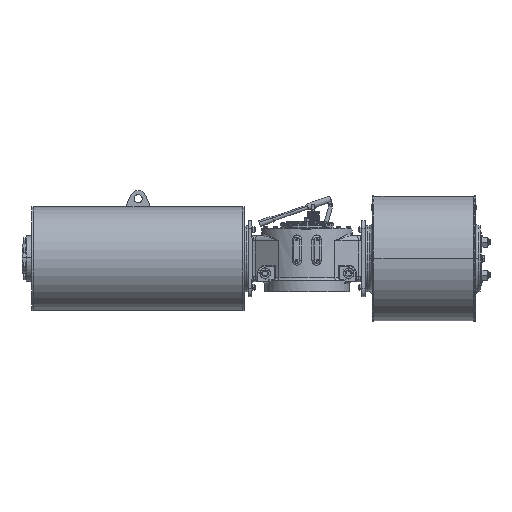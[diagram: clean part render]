
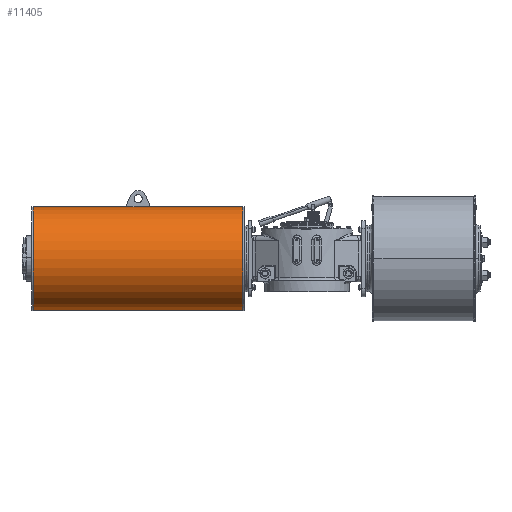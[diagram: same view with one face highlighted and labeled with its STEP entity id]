
A CAD part, front view. The second image highlights one B-rep face of the part: STEP entity #11405.
In plain terms, the highlighted cylindrical face has radius 254 mm (diameter 508 mm), a partial arc.
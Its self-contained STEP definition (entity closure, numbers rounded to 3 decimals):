
#534 = EDGE_CURVE ( 'NONE', #93563, #89310, #58595, .T. ) ;
#1491 = CIRCLE ( 'NONE', #76799, 254. ) ;
#3608 = FACE_OUTER_BOUND ( 'NONE', #30687, .T. ) ;
#5341 = EDGE_CURVE ( 'NONE', #89310, #21722, #104550, .T. ) ;
#6694 = EDGE_CURVE ( 'NONE', #21722, #26687, #41838, .T. ) ;
#7320 = DIRECTION ( 'NONE',  ( 0., 0., -1. ) ) ;
#7485 = CIRCLE ( 'NONE', #26333, 254. ) ;
#11405 = ADVANCED_FACE ( 'NONE', ( #3608 ), #60400, .T. ) ;
#17407 = DIRECTION ( 'NONE',  ( 1., 0., 0. ) ) ;
#17539 = AXIS2_PLACEMENT_3D ( 'NONE', #30682, #55883, #71920 ) ;
#17939 = CARTESIAN_POINT ( 'NONE',  ( -1340.5, 140., 113. ) ) ;
#18133 = CARTESIAN_POINT ( 'NONE',  ( -317.5, 140., 113. ) ) ;
#19075 = VECTOR ( 'NONE', #90070, 1000. ) ;
#19426 = CARTESIAN_POINT ( 'NONE',  ( -314.5, 140., 113. ) ) ;
#20191 = EDGE_CURVE ( 'NONE', #90753, #21476, #96701, .T. ) ;
#21476 = VERTEX_POINT ( 'NONE', #56202 ) ;
#21722 = VERTEX_POINT ( 'NONE', #92539 ) ;
#21878 = EDGE_CURVE ( 'NONE', #26687, #76596, #7485, .T. ) ;
#25780 = ORIENTED_EDGE ( 'NONE', *, *, #35805, .F. ) ;
#25961 = DIRECTION ( 'NONE',  ( 0., 0., -1. ) ) ;
#26333 = AXIS2_PLACEMENT_3D ( 'NONE', #97809, #30887, #7320 ) ;
#26687 = VERTEX_POINT ( 'NONE', #94264 ) ;
#30682 = CARTESIAN_POINT ( 'NONE',  ( -314.5, 140., 113. ) ) ;
#30687 = EDGE_LOOP ( 'NONE', ( #74114, #58182, #67417, #32818, #74913, #89598, #101991, #95105, #46771, #25780 ) ) ;
#30887 = DIRECTION ( 'NONE',  ( 1., 0., 0. ) ) ;
#32818 = ORIENTED_EDGE ( 'NONE', *, *, #21878, .T. ) ;
#33813 = CARTESIAN_POINT ( 'NONE',  ( -317.5, 140., 367. ) ) ;
#34531 = CARTESIAN_POINT ( 'NONE',  ( -767.5, 135., 366.951 ) ) ;
#35805 = EDGE_CURVE ( 'NONE', #93563, #89557, #58503, .T. ) ;
#35976 = DIRECTION ( 'NONE',  ( 0., 0., 1. ) ) ;
#41838 = LINE ( 'NONE', #33813, #19075 ) ;
#44277 = CARTESIAN_POINT ( 'NONE',  ( -1340.5, -114., 113. ) ) ;
#44844 = DIRECTION ( 'NONE',  ( -1., 0., 0. ) ) ;
#45371 = AXIS2_PLACEMENT_3D ( 'NONE', #76665, #50483, #35976 ) ;
#46771 = ORIENTED_EDGE ( 'NONE', *, *, #94290, .T. ) ;
#47332 = LINE ( 'NONE', #87482, #58229 ) ;
#48175 = DIRECTION ( 'NONE',  ( 0., 0., -1. ) ) ;
#48236 = CARTESIAN_POINT ( 'NONE',  ( -1340.5, 140., -141. ) ) ;
#48725 = EDGE_CURVE ( 'NONE', #21476, #105308, #63981, .T. ) ;
#49958 = CARTESIAN_POINT ( 'NONE',  ( -314.5, 140., -141. ) ) ;
#50483 = DIRECTION ( 'NONE',  ( -1., 0., 0. ) ) ;
#52107 = DIRECTION ( 'NONE',  ( 0., 0., -1. ) ) ;
#55883 = DIRECTION ( 'NONE',  ( -1., 0., 0. ) ) ;
#56202 = CARTESIAN_POINT ( 'NONE',  ( -887.5, 140., 367. ) ) ;
#58182 = ORIENTED_EDGE ( 'NONE', *, *, #5341, .T. ) ;
#58229 = VECTOR ( 'NONE', #71945, 1000. ) ;
#58503 = LINE ( 'NONE', #105147, #101843 ) ;
#58595 = CIRCLE ( 'NONE', #17539, 254. ) ;
#60400 = CYLINDRICAL_SURFACE ( 'NONE', #78472, 254. ) ;
#63981 = LINE ( 'NONE', #65042, #70787 ) ;
#64454 = DIRECTION ( 'NONE',  ( -1., 0., 0. ) ) ;
#65042 = CARTESIAN_POINT ( 'NONE',  ( -317.5, 140., 367. ) ) ;
#67417 = ORIENTED_EDGE ( 'NONE', *, *, #6694, .T. ) ;
#70787 = VECTOR ( 'NONE', #88599, 1000. ) ;
#71920 = DIRECTION ( 'NONE',  ( 0., 0., -1. ) ) ;
#71945 = DIRECTION ( 'NONE',  ( 1., 0., 0. ) ) ;
#72251 = AXIS2_PLACEMENT_3D ( 'NONE', #17939, #17407, #25961 ) ;
#74077 = EDGE_CURVE ( 'NONE', #105308, #105615, #1491, .T. ) ;
#74114 = ORIENTED_EDGE ( 'NONE', *, *, #534, .T. ) ;
#74913 = ORIENTED_EDGE ( 'NONE', *, *, #86921, .F. ) ;
#76596 = VERTEX_POINT ( 'NONE', #34531 ) ;
#76665 = CARTESIAN_POINT ( 'NONE',  ( -887.5, 140., 113. ) ) ;
#76799 = AXIS2_PLACEMENT_3D ( 'NONE', #81348, #88854, #48175 ) ;
#78472 = AXIS2_PLACEMENT_3D ( 'NONE', #18133, #44844, #83968 ) ;
#80811 = CIRCLE ( 'NONE', #72251, 254. ) ;
#81348 = CARTESIAN_POINT ( 'NONE',  ( -1340.5, 140., 113. ) ) ;
#83968 = DIRECTION ( 'NONE',  ( 0., 0., -1. ) ) ;
#86321 = DIRECTION ( 'NONE',  ( -1., 0., 0. ) ) ;
#86921 = EDGE_CURVE ( 'NONE', #90753, #76596, #47332, .T. ) ;
#87482 = CARTESIAN_POINT ( 'NONE',  ( -317.5, 135., 366.951 ) ) ;
#88599 = DIRECTION ( 'NONE',  ( -1., 0., 0. ) ) ;
#88854 = DIRECTION ( 'NONE',  ( 1., 0., 0. ) ) ;
#89310 = VERTEX_POINT ( 'NONE', #105535 ) ;
#89557 = VERTEX_POINT ( 'NONE', #48236 ) ;
#89598 = ORIENTED_EDGE ( 'NONE', *, *, #20191, .T. ) ;
#90070 = DIRECTION ( 'NONE',  ( -1., 0., 0. ) ) ;
#90753 = VERTEX_POINT ( 'NONE', #93680 ) ;
#90871 = AXIS2_PLACEMENT_3D ( 'NONE', #19426, #86321, #52107 ) ;
#92539 = CARTESIAN_POINT ( 'NONE',  ( -314.5, 140., 367. ) ) ;
#93178 = CARTESIAN_POINT ( 'NONE',  ( -1340.5, 140., 367. ) ) ;
#93563 = VERTEX_POINT ( 'NONE', #49958 ) ;
#93680 = CARTESIAN_POINT ( 'NONE',  ( -887.5, 135., 366.951 ) ) ;
#94264 = CARTESIAN_POINT ( 'NONE',  ( -767.5, 140., 367. ) ) ;
#94290 = EDGE_CURVE ( 'NONE', #105615, #89557, #80811, .T. ) ;
#95105 = ORIENTED_EDGE ( 'NONE', *, *, #74077, .T. ) ;
#96701 = CIRCLE ( 'NONE', #45371, 254. ) ;
#97809 = CARTESIAN_POINT ( 'NONE',  ( -767.5, 140., 113. ) ) ;
#101843 = VECTOR ( 'NONE', #64454, 1000. ) ;
#101991 = ORIENTED_EDGE ( 'NONE', *, *, #48725, .T. ) ;
#104550 = CIRCLE ( 'NONE', #90871, 254. ) ;
#105147 = CARTESIAN_POINT ( 'NONE',  ( -317.5, 140., -141. ) ) ;
#105308 = VERTEX_POINT ( 'NONE', #93178 ) ;
#105535 = CARTESIAN_POINT ( 'NONE',  ( -314.5, -114., 113. ) ) ;
#105615 = VERTEX_POINT ( 'NONE', #44277 ) ;
